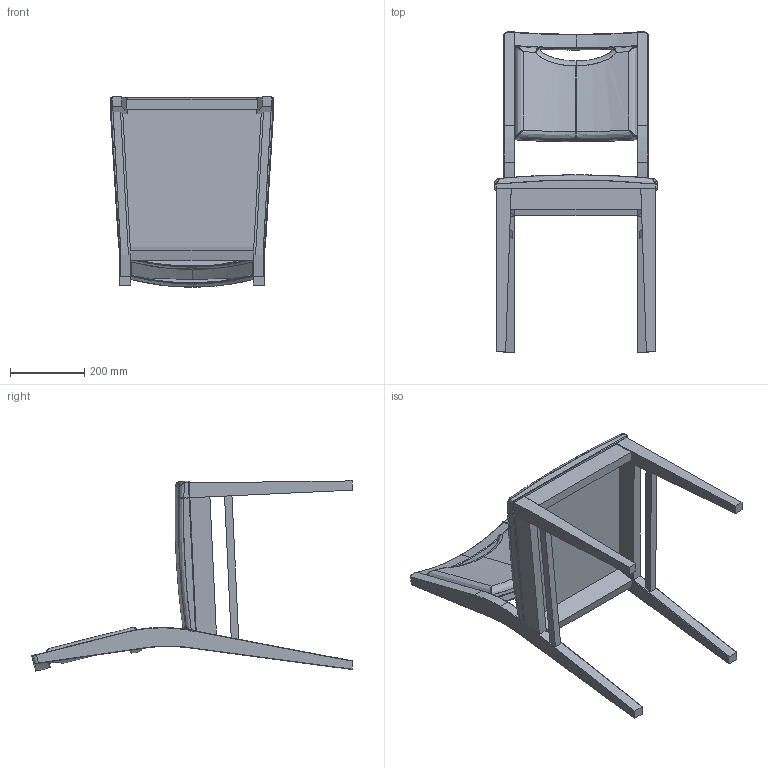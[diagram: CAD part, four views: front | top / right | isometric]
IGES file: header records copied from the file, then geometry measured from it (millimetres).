
Start section: SolidWorks IGES file using analytic representation for surfaces
Global section: file name: C:\Users\adao\Documents\Trab Adao\Desenho técnico PRODUÇÃO\J M S\MARTY\BETTY GERIATRIA (ex-Marty)\CADEIRA SG\Cadeira BETTY SG-472.IGS; native system: SolidWorks 2016; preprocessor: SolidWorks 2016; author: Adao; date: 160219.153744; units: millimetre
Bounding box: 439 x 862.77 x 512.57 mm (x, y, z)
Surface area: 1262071.2 mm2 (no closed solid volume)
Topology: 0 solids, 0 shells, 199 faces, 1916 edges, 1907 vertices
Faces by surface type: bspline 144, revolution 55
